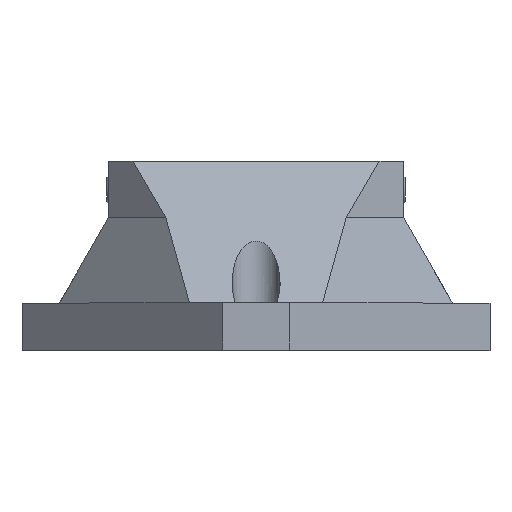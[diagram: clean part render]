
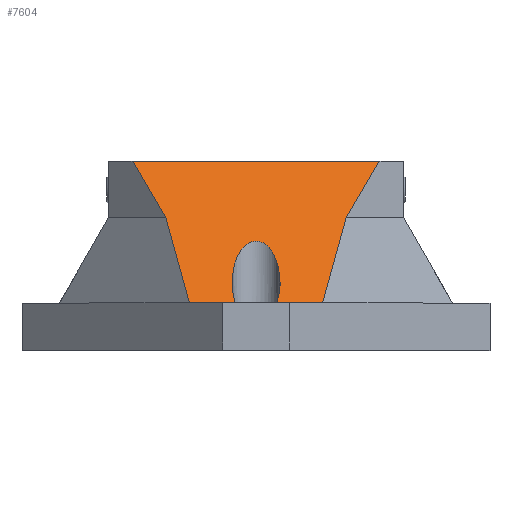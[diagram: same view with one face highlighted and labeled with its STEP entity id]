
A CAD part, top view. The second image highlights one B-rep face of the part: STEP entity #7604.
In plain terms, the highlighted planar face has unit normal (0, 0.5, 0.866) as drawn and (-0.866, 0.5, 0) by its records, which use the part's own axes.
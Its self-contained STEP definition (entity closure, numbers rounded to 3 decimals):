
#306 = FACE_OUTER_BOUND ( 'NONE', #1908, .T. ) ;
#486 = CARTESIAN_POINT ( 'NONE',  ( -62.865, 100., 65.029 ) ) ;
#567 = CARTESIAN_POINT ( 'NONE',  ( -104.155, 28.483, 23.739 ) ) ;
#667 = VECTOR ( 'NONE', #6429, 1000. ) ;
#932 = CARTESIAN_POINT ( 'NONE',  ( -62.865, 100., -141.421 ) ) ;
#945 = CARTESIAN_POINT ( 'NONE',  ( -106.166, 25., 11.103 ) ) ;
#1021 = CARTESIAN_POINT ( 'NONE',  ( -62.865, 100., -65.029 ) ) ;
#1032 = DIRECTION ( 'NONE',  ( 0.866, -0.5, 0. ) ) ;
#1302 = VERTEX_POINT ( 'NONE', #486 ) ;
#1568 = CARTESIAN_POINT ( 'NONE',  ( -87.3, 57.677, 10.867 ) ) ;
#1902 = DIRECTION ( 'NONE',  ( 0., 0., 1. ) ) ;
#1908 = EDGE_LOOP ( 'NONE', ( #2027, #8874, #2906, #3680, #2209, #9133, #3348, #2176 ) ) ;
#1953 = VERTEX_POINT ( 'NONE', #4313 ) ;
#2027 = ORIENTED_EDGE ( 'NONE', *, *, #4342, .T. ) ;
#2061 = DIRECTION ( 'NONE',  ( 0.447, 0.775, 0.447 ) ) ;
#2176 = ORIENTED_EDGE ( 'NONE', *, *, #2602, .T. ) ;
#2209 = ORIENTED_EDGE ( 'NONE', *, *, #2768, .T. ) ;
#2400 = CARTESIAN_POINT ( 'NONE',  ( -80.186, 70., 47.709 ) ) ;
#2478 = VECTOR ( 'NONE', #4381, 1000. ) ;
#2602 = EDGE_CURVE ( 'NONE', #3317, #1302, #9373, .T. ) ;
#2768 = EDGE_CURVE ( 'NONE', #6169, #8649, #7726, .T. ) ;
#2900 = CARTESIAN_POINT ( 'NONE',  ( -85.239, 61.247, 45.286 ) ) ;
#2906 = ORIENTED_EDGE ( 'NONE', *, *, #9331, .T. ) ;
#2954 = CARTESIAN_POINT ( 'NONE',  ( -106.166, 25., -141.421 ) ) ;
#3134 = DIRECTION ( 'NONE',  ( 0.5, 0.866, 0. ) ) ;
#3145 = CARTESIAN_POINT ( 'NONE',  ( -87.3, 57.677, 0. ) ) ;
#3317 = VERTEX_POINT ( 'NONE', #2400 ) ;
#3348 = ORIENTED_EDGE ( 'NONE', *, *, #8767, .T. ) ;
#3555 = DIRECTION ( 'NONE',  ( 0.486, 0.842, 0.233 ) ) ;
#3680 = ORIENTED_EDGE ( 'NONE', *, *, #5585, .T. ) ;
#3781 = VECTOR ( 'NONE', #6941, 1000. ) ;
#3911 = CARTESIAN_POINT ( 'NONE',  ( -96.666, 41.455, 16.379 ) ) ;
#4313 = CARTESIAN_POINT ( 'NONE',  ( -106.166, 25., 35.255 ) ) ;
#4342 = EDGE_CURVE ( 'NONE', #1302, #8037, #6528, .T. ) ;
#4381 = DIRECTION ( 'NONE',  ( 0., 0., 1. ) ) ;
#4534 = CARTESIAN_POINT ( 'NONE',  ( -106.166, 25., -11.103 ) ) ;
#4581 = CARTESIAN_POINT ( 'NONE',  ( -87.3, 57.677, -10.867 ) ) ;
#4831 = CARTESIAN_POINT ( 'NONE',  ( -53.186, 116.765, -60.651 ) ) ;
#5093 = LINE ( 'NONE', #7152, #667 ) ;
#5333 = CARTESIAN_POINT ( 'NONE',  ( -80.186, 70., -47.709 ) ) ;
#5585 = EDGE_CURVE ( 'NONE', #6623, #6169, #5867, .T. ) ;
#5815 = CARTESIAN_POINT ( 'NONE',  ( -62.865, 100., 0. ) ) ;
#5867 = LINE ( 'NONE', #2954, #2478 ) ;
#6169 = VERTEX_POINT ( 'NONE', #6833 ) ;
#6186 = VECTOR ( 'NONE', #3555, 1000. ) ;
#6429 = DIRECTION ( 'NONE',  ( -0.447, -0.775, 0.447 ) ) ;
#6524 = LINE ( 'NONE', #2900, #6186 ) ;
#6528 = LINE ( 'NONE', #5815, #9445 ) ;
#6535 = VECTOR ( 'NONE', #2061, 1000. ) ;
#6623 = VERTEX_POINT ( 'NONE', #7579 ) ;
#6695 = VERTEX_POINT ( 'NONE', #5333 ) ;
#6727 = PLANE ( 'NONE',  #7829 ) ;
#6774 = CARTESIAN_POINT ( 'NONE',  ( -106.166, 25., -141.421 ) ) ;
#6783 = EDGE_CURVE ( 'NONE', #8649, #1953, #8446, .T. ) ;
#6833 = CARTESIAN_POINT ( 'NONE',  ( -106.166, 25., -11.103 ) ) ;
#6941 = DIRECTION ( 'NONE',  ( -0.486, -0.842, 0.233 ) ) ;
#7152 = CARTESIAN_POINT ( 'NONE',  ( -47.587, 126.463, -80.308 ) ) ;
#7338 = DIRECTION ( 'NONE',  ( 0., 0., -1. ) ) ;
#7344 = VECTOR ( 'NONE', #1902, 1000. ) ;
#7579 = CARTESIAN_POINT ( 'NONE',  ( -106.166, 25., -35.255 ) ) ;
#7604 = ADVANCED_FACE ( 'NONE', ( #306 ), #6727, .F. ) ;
#7726 =( BOUNDED_CURVE ( )  B_SPLINE_CURVE ( 3, ( #4534, #8115, #4581, #3145, #1568, #3911, #945 ),
 .UNSPECIFIED., .F., .T. ) 
 B_SPLINE_CURVE_WITH_KNOTS ( ( 4, 3, 4 ),
 ( 4.205, 6.283, 8.361 ),
 .UNSPECIFIED. ) 
 CURVE ( )  GEOMETRIC_REPRESENTATION_ITEM ( )  RATIONAL_B_SPLINE_CURVE ( ( 1., 0.671, 0.671, 1., 0.671, 0.671, 1. ) ) 
 REPRESENTATION_ITEM ( '' )  );
#7829 = AXIS2_PLACEMENT_3D ( 'NONE', #932, #1032, #3134 ) ;
#7844 = LINE ( 'NONE', #4831, #3781 ) ;
#8037 = VERTEX_POINT ( 'NONE', #1021 ) ;
#8115 = CARTESIAN_POINT ( 'NONE',  ( -96.666, 41.455, -16.379 ) ) ;
#8446 = LINE ( 'NONE', #6774, #7344 ) ;
#8463 = CARTESIAN_POINT ( 'NONE',  ( -106.166, 25., 11.103 ) ) ;
#8649 = VERTEX_POINT ( 'NONE', #8463 ) ;
#8767 = EDGE_CURVE ( 'NONE', #1953, #3317, #6524, .T. ) ;
#8793 = EDGE_CURVE ( 'NONE', #8037, #6695, #5093, .T. ) ;
#8874 = ORIENTED_EDGE ( 'NONE', *, *, #8793, .T. ) ;
#9133 = ORIENTED_EDGE ( 'NONE', *, *, #6783, .T. ) ;
#9331 = EDGE_CURVE ( 'NONE', #6695, #6623, #7844, .T. ) ;
#9373 = LINE ( 'NONE', #567, #6535 ) ;
#9445 = VECTOR ( 'NONE', #7338, 1000. ) ;
